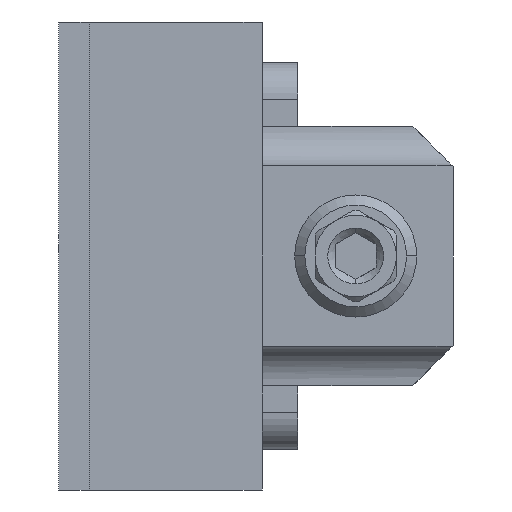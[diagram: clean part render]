
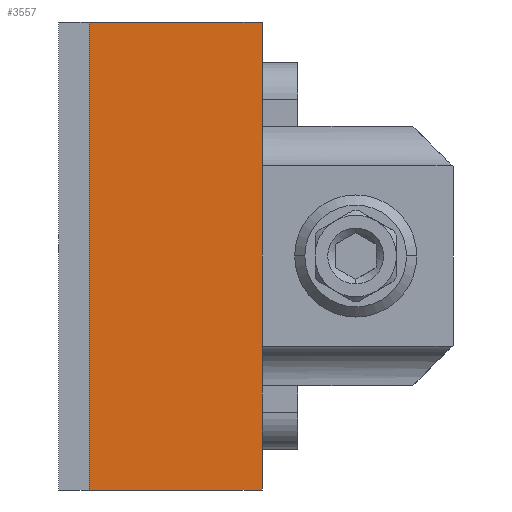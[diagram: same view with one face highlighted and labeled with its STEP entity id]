
A CAD part, left-side view. The second image highlights one B-rep face of the part: STEP entity #3557.
In plain terms, the highlighted planar face has unit normal (-1, 0, 0).
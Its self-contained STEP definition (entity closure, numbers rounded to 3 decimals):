
#301 = AXIS2_PLACEMENT_3D ( 'NONE', #1950, #1551, #2628 ) ;
#753 = ORIENTED_EDGE ( 'NONE', *, *, #885, .T. ) ;
#772 = LINE ( 'NONE', #1511, #3796 ) ;
#885 = EDGE_CURVE ( 'NONE', #3047, #3650, #772, .T. ) ;
#1047 = ORIENTED_EDGE ( 'NONE', *, *, #2659, .T. ) ;
#1244 = LINE ( 'NONE', #4942, #1813 ) ;
#1289 = DIRECTION ( 'NONE',  ( 0., 0., 1. ) ) ;
#1511 = CARTESIAN_POINT ( 'NONE',  ( -10., 9.2, 19. ) ) ;
#1551 = DIRECTION ( 'NONE',  ( -1., 0., 0. ) ) ;
#1813 = VECTOR ( 'NONE', #1289, 1000. ) ;
#1929 = EDGE_CURVE ( 'NONE', #4484, #3383, #1244, .T. ) ;
#1944 = CARTESIAN_POINT ( 'NONE',  ( -10., 26.2, -23. ) ) ;
#1950 = CARTESIAN_POINT ( 'NONE',  ( -10., 5.7, -23. ) ) ;
#2291 = DIRECTION ( 'NONE',  ( 0., 1., 0. ) ) ;
#2628 = DIRECTION ( 'NONE',  ( 0., 0., 1. ) ) ;
#2659 = EDGE_CURVE ( 'NONE', #3650, #3383, #4523, .T. ) ;
#2661 = PLANE ( 'NONE',  #301 ) ;
#2786 = ORIENTED_EDGE ( 'NONE', *, *, #1929, .F. ) ;
#2843 = EDGE_LOOP ( 'NONE', ( #3016, #753, #1047, #2786 ) ) ;
#2899 = CARTESIAN_POINT ( 'NONE',  ( -10., 9.2, -23. ) ) ;
#2998 = VECTOR ( 'NONE', #2291, 1000. ) ;
#3016 = ORIENTED_EDGE ( 'NONE', *, *, #4500, .T. ) ;
#3047 = VERTEX_POINT ( 'NONE', #2899 ) ;
#3126 = DIRECTION ( 'NONE',  ( 0., 0., 1. ) ) ;
#3383 = VERTEX_POINT ( 'NONE', #5009 ) ;
#3516 = CARTESIAN_POINT ( 'NONE',  ( -10., 29.2, -23. ) ) ;
#3557 = ADVANCED_FACE ( 'NONE', ( #4741 ), #2661, .T. ) ;
#3650 = VERTEX_POINT ( 'NONE', #4408 ) ;
#3796 = VECTOR ( 'NONE', #3126, 1000. ) ;
#4340 = VECTOR ( 'NONE', #5274, 1000. ) ;
#4408 = CARTESIAN_POINT ( 'NONE',  ( -10., 9.2, 23. ) ) ;
#4484 = VERTEX_POINT ( 'NONE', #1944 ) ;
#4500 = EDGE_CURVE ( 'NONE', #4484, #3047, #4758, .T. ) ;
#4523 = LINE ( 'NONE', #5111, #2998 ) ;
#4741 = FACE_OUTER_BOUND ( 'NONE', #2843, .T. ) ;
#4758 = LINE ( 'NONE', #3516, #4340 ) ;
#4942 = CARTESIAN_POINT ( 'NONE',  ( -10., 26.2, -23. ) ) ;
#5009 = CARTESIAN_POINT ( 'NONE',  ( -10., 26.2, 23. ) ) ;
#5111 = CARTESIAN_POINT ( 'NONE',  ( -10., 9.2, 23. ) ) ;
#5274 = DIRECTION ( 'NONE',  ( 0., -1., 0. ) ) ;
